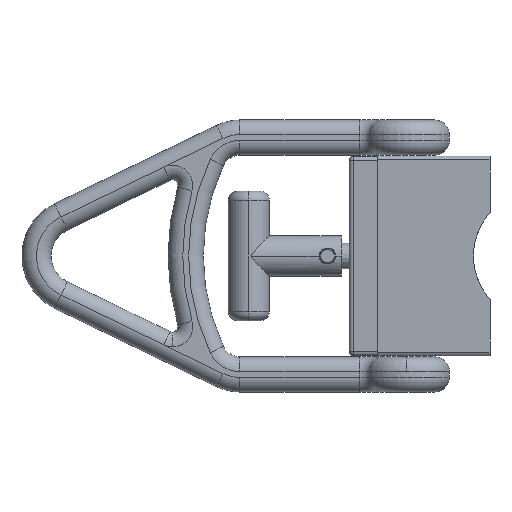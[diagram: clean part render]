
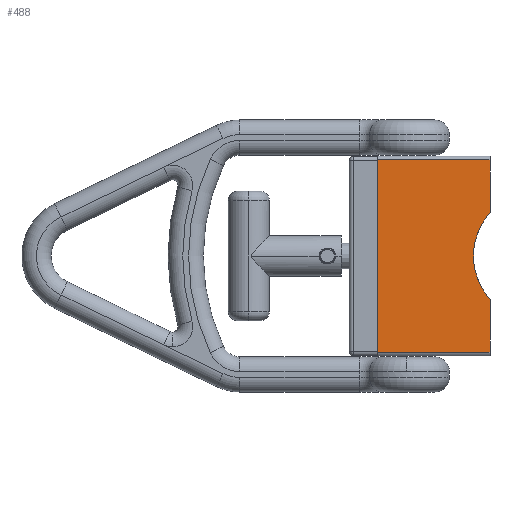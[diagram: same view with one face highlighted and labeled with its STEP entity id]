
A CAD part, left-side view. The second image highlights one B-rep face of the part: STEP entity #488.
In plain terms, the highlighted planar face has unit normal (-1, 0, 0).
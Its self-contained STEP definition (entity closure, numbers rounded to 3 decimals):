
#488 = ADVANCED_FACE ( 'NONE', ( #7791 ), #8420, .T. ) ;
#1070 = EDGE_LOOP ( 'NONE', ( #2830, #2831, #2832, #2833, #2834, #2835 ) ) ;
#1420 = EDGE_CURVE ( 'NONE', #17814, #17813, #8221, .T. ) ;
#1426 = EDGE_CURVE ( 'NONE', #17813, #17827, #8223, .T. ) ;
#1440 = EDGE_CURVE ( 'NONE', #17827, #17851, #8248, .T. ) ;
#1442 = EDGE_CURVE ( 'NONE', #17839, #17814, #8253, .T. ) ;
#1450 = EDGE_CURVE ( 'NONE', #17850, #17839, #8256, .T. ) ;
#1453 = EDGE_CURVE ( 'NONE', #17851, #17850, #8264, .T. ) ;
#2830 = ORIENTED_EDGE ( 'NONE', *, *, #1420, .T. ) ;
#2831 = ORIENTED_EDGE ( 'NONE', *, *, #1426, .T. ) ;
#2832 = ORIENTED_EDGE ( 'NONE', *, *, #1440, .T. ) ;
#2833 = ORIENTED_EDGE ( 'NONE', *, *, #1453, .T. ) ;
#2834 = ORIENTED_EDGE ( 'NONE', *, *, #1450, .T. ) ;
#2835 = ORIENTED_EDGE ( 'NONE', *, *, #1442, .T. ) ;
#5845 = AXIS2_PLACEMENT_3D ( 'NONE', #8418, #8423, #8424 ) ;
#7791 = FACE_OUTER_BOUND ( 'NONE', #1070, .T. ) ;
#8220 = VECTOR ( 'NONE', #9216, 1000. ) ;
#8221 = LINE ( 'NONE', #9211, #8220 ) ;
#8222 = VECTOR ( 'NONE', #9235, 1000. ) ;
#8223 = LINE ( 'NONE', #9234, #8222 ) ;
#8248 = LINE ( 'NONE', #9268, #8249 ) ;
#8249 = VECTOR ( 'NONE', #9269, 1000. ) ;
#8252 = VECTOR ( 'NONE', #9296, 1000. ) ;
#8253 = CIRCLE ( 'NONE', #9641, 35. ) ;
#8256 = LINE ( 'NONE', #9295, #8252 ) ;
#8257 = VECTOR ( 'NONE', #9305, 1000. ) ;
#8264 = LINE ( 'NONE', #9304, #8257 ) ;
#8418 = CARTESIAN_POINT ( 'NONE',  ( -36., -26., 0. ) ) ;
#8420 = PLANE ( 'NONE',  #5845 ) ;
#8423 = DIRECTION ( 'NONE',  ( -1., 0., 0. ) ) ;
#8424 = DIRECTION ( 'NONE',  ( 0., 0., 1. ) ) ;
#9211 = CARTESIAN_POINT ( 'NONE',  ( -36., 0., 23.431 ) ) ;
#9216 = DIRECTION ( 'NONE',  ( 0., 0., 1. ) ) ;
#9234 = CARTESIAN_POINT ( 'NONE',  ( -36., 61., 52. ) ) ;
#9235 = DIRECTION ( 'NONE',  ( 0., 1., 0. ) ) ;
#9268 = CARTESIAN_POINT ( 'NONE',  ( -36., 61., -54. ) ) ;
#9269 = DIRECTION ( 'NONE',  ( 0., 0., -1. ) ) ;
#9273 = CARTESIAN_POINT ( 'NONE',  ( -36., -26., 0. ) ) ;
#9275 = DIRECTION ( 'NONE',  ( 1., 0., 0. ) ) ;
#9276 = DIRECTION ( 'NONE',  ( 0., 0., 1. ) ) ;
#9295 = CARTESIAN_POINT ( 'NONE',  ( -36., 0., -54. ) ) ;
#9296 = DIRECTION ( 'NONE',  ( 0., 0., 1. ) ) ;
#9304 = CARTESIAN_POINT ( 'NONE',  ( -36., 0., -52. ) ) ;
#9305 = DIRECTION ( 'NONE',  ( 0., -1., 0. ) ) ;
#9641 = AXIS2_PLACEMENT_3D ( 'NONE', #9273, #9275, #9276 ) ;
#17050 = CARTESIAN_POINT ( 'NONE',  ( -36., 0., 52. ) ) ;
#17051 = CARTESIAN_POINT ( 'NONE',  ( -36., 0., 23.431 ) ) ;
#17064 = CARTESIAN_POINT ( 'NONE',  ( -36., 61., 52. ) ) ;
#17076 = CARTESIAN_POINT ( 'NONE',  ( -36., 0., -23.431 ) ) ;
#17087 = CARTESIAN_POINT ( 'NONE',  ( -36., 0., -52. ) ) ;
#17088 = CARTESIAN_POINT ( 'NONE',  ( -36., 61., -52. ) ) ;
#17813 = VERTEX_POINT ( 'NONE', #17050 ) ;
#17814 = VERTEX_POINT ( 'NONE', #17051 ) ;
#17827 = VERTEX_POINT ( 'NONE', #17064 ) ;
#17839 = VERTEX_POINT ( 'NONE', #17076 ) ;
#17850 = VERTEX_POINT ( 'NONE', #17087 ) ;
#17851 = VERTEX_POINT ( 'NONE', #17088 ) ;
